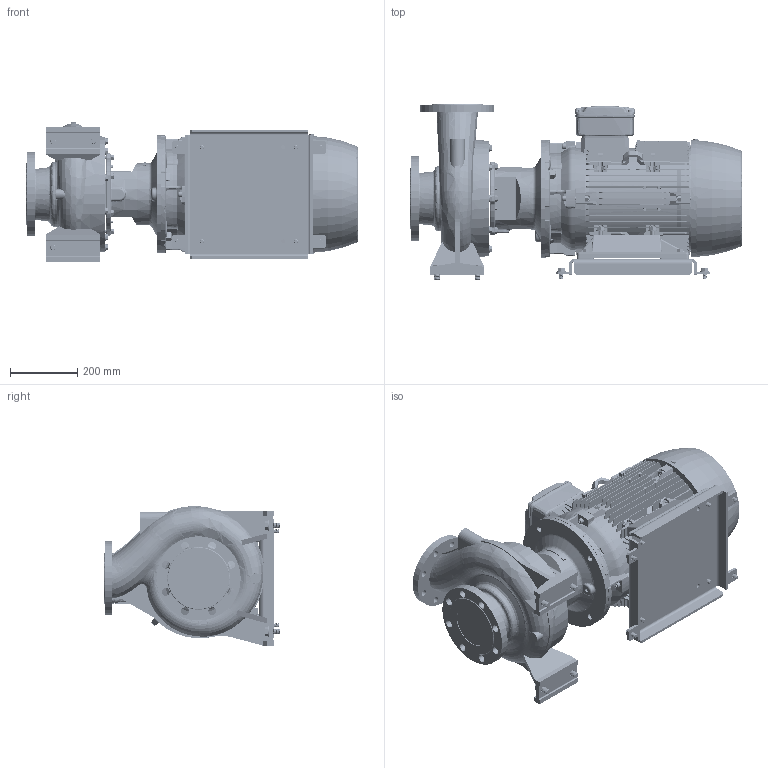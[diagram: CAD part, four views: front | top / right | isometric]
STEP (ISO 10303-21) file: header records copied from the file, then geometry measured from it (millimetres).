
FILE_DESCRIPTION (( 'STEP AP214' ), '1' );
FILE_NAME ('GSD4 100-250_18.5_(180ML)_W21.STEP', '2026-07-01T05:31:49', ( '' ), ( '' ), 'SwSTEP 2.0', 'SolidWorks 2024', '' );
FILE_SCHEMA (( 'AUTOMOTIVE_DESIGN' ));
Length unit declared in the file: millimetre
Products named in the file (12): Parametric bolt_SFT-A305B; GSD4 100-250_18.5_(180ML)_W21; Parametric bolt and washer_SFT-A297B; 180M_L ALIE3_W21T_B35; Parametric bolt_SFT-A297B; CGS11-5262; Parametric bolt_SFT-A353B; Parametric bolt and washer_SFT-A305B; 100-250-180M_L_ﾃﾞﾌｫﾙﾄ; Parametric Flat Washer_M12; Parametric Flat Washer_M16; Parametric bolt and washer_SFT-A353B
Assembly tree (21 placements, depth 3):
  GSD4 100-250_18.5_(180ML)_W21
    100-250-180M_L_ﾃﾞﾌｫﾙﾄ
    CGS11-5262
    Parametric bolt and washer_SFT-A353B  x4
      Parametric bolt_SFT-A353B
      Parametric Flat Washer_M16
    Parametric bolt and washer_SFT-A297B  x4
      Parametric bolt_SFT-A297B
      Parametric Flat Washer_M12
    Parametric bolt and washer_SFT-A305B  x4
      Parametric bolt_SFT-A305B
      Parametric Flat Washer_M12
    180M_L ALIE3_W21T_B35
Bounding box: 984.8 x 521 x 413.99 mm (x, y, z)
Volume: 71568413.2 mm3; surface area: 3935954.6 mm2
Topology: 53 solids, 53 shells, 6621 faces, 17165 edges, 11105 vertices
Faces by surface type: plane 3891, cylinder 1299, cone 660, bspline 484, torus 271, sphere 16
Entity records: 248764 total; most frequent: CARTESIAN_POINT 106839, ORIENTED_EDGE 31322, DIRECTION 26222, EDGE_CURVE 15661, VERTEX_POINT 10136, VECTOR 9778, LINE 9778, AXIS2_PLACEMENT_3D 8222
